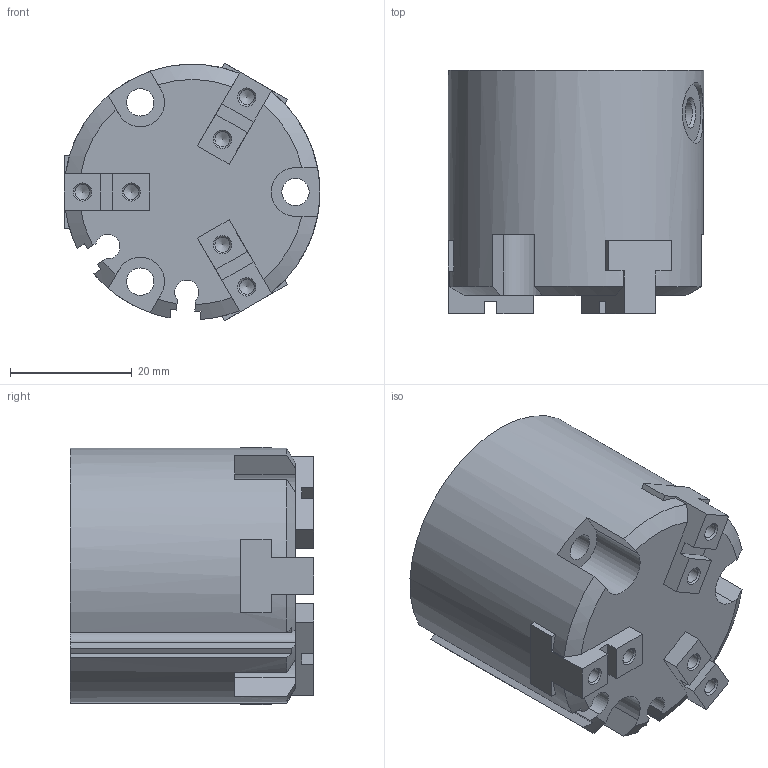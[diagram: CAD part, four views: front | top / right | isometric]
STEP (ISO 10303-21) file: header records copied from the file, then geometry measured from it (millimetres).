
FILE_DESCRIPTION(('STEP AP214'),'1');
FILE_NAME('CA.MHS.25.stp','2022-09-21T14:33:05',(' '),(' '),'Spatial InterOp 3D',' ',' ');
FILE_SCHEMA(('AUTOMOTIVE_DESIGN { 1 0 10303 214 1 1 1 1 }'));
Length unit declared in the file: millimetre
Products named in the file (3): CA.MHS.25; _MHS3-25(0)_FINGER; _MHS3-25D(0)_BODY
Assembly tree (4 placements, depth 2):
  CA.MHS.25
    _MHS3-25(0)_FINGER  x3
    _MHS3-25D(0)_BODY
Bounding box: 41.99 x 40 x 42.37 mm (x, y, z)
Volume: 45630.6 mm3; surface area: 14533.3 mm2
Topology: 4 solids, 4 shells, 165 faces, 441 edges, 289 vertices
Faces by surface type: plane 108, cone 30, cylinder 27
Full cylindrical faces by diameter (mm): 2.459 x6, 3 x1, 3.242 x3, 4.134 x2, 4.5 x3, 10 x2, 26 x1
Entity records: 4820 total; most frequent: CARTESIAN_POINT 763, DIRECTION 590, ORIENTED_EDGE 574, EDGE_CURVE 287, VERTEX_POINT 210, AXIS2_PLACEMENT_3D 203, LINE 184, VECTOR 184
